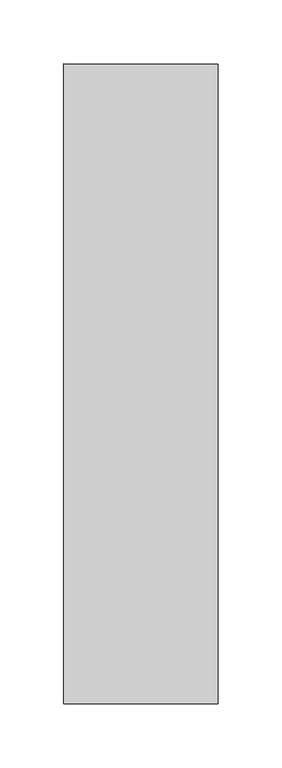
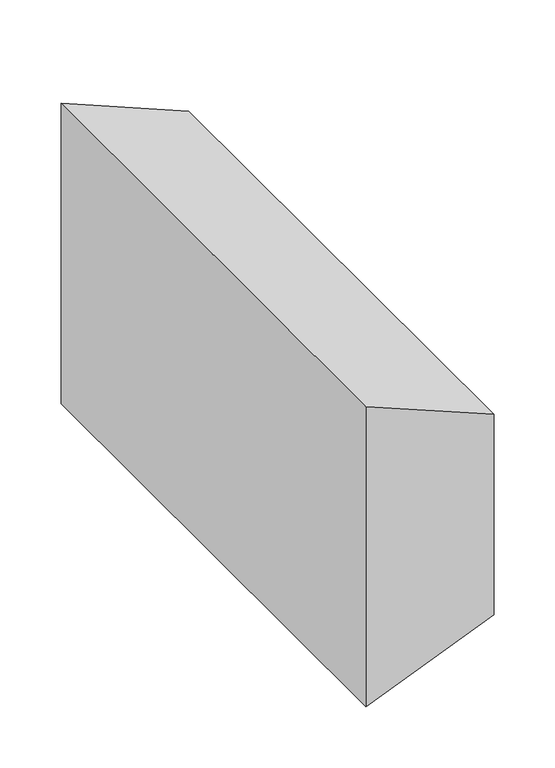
"""IFC4 building model written with IfcOpenShell, lengths in millimetres: duct fitting geometry, M_Transición rectangular - Ángulo : APT_45 graus."""

from ifc_helpers import new_model, si_unit, frame, origin, place, context, project, spatial, polyline, outline, extrude, source, transform, mapped, element, save


def duct_fitting_afa92eea(model_context):
    return source(origin(), model_context, "Body", "SweptSolid", [
        extrude(outline(polyline([(150.0, 0.0), (-150.0, 0.0), (-100.0, 120.7106781), (100.0, 120.7106781), (150.0, 0.0)])), frame((0.0, -250.0, 0.0), z_axis=(0.0, 1.0, 0.0), x_axis=(0.0, 0.0, 1.0)), (0.0, 0.0, 1.0), 500.0),
    ])


if __name__ == "__main__":
    model = new_model("IFC4")
    model_context = context("Model", 3, world=origin())
    ifc_project = project(units=[si_unit("LENGTHUNIT", "METRE", prefix="MILLI")], contexts=[model_context])
    site = spatial("IfcSite", under=ifc_project)
    building = spatial("IfcBuilding", under=site)
    placement = place(None, origin())
    duct_fitting_shape = duct_fitting_afa92eea(model_context)
    element("IfcDuctFitting", 1, ObjectType="M_Transición rectangular - Ángulo : APT_45 graus", at=placement, inside=building, context=model_context, shape_type="MappedRepresentation", body=[
        mapped(duct_fitting_shape, transform((0.0, 0.0, 0.0), x_axis=(1.0, 0.0, 0.0), y_axis=(0.0, 1.0, 0.0), z_axis=(0.0, 0.0, 1.0))),
    ])
    save(model, "model.ifc")
